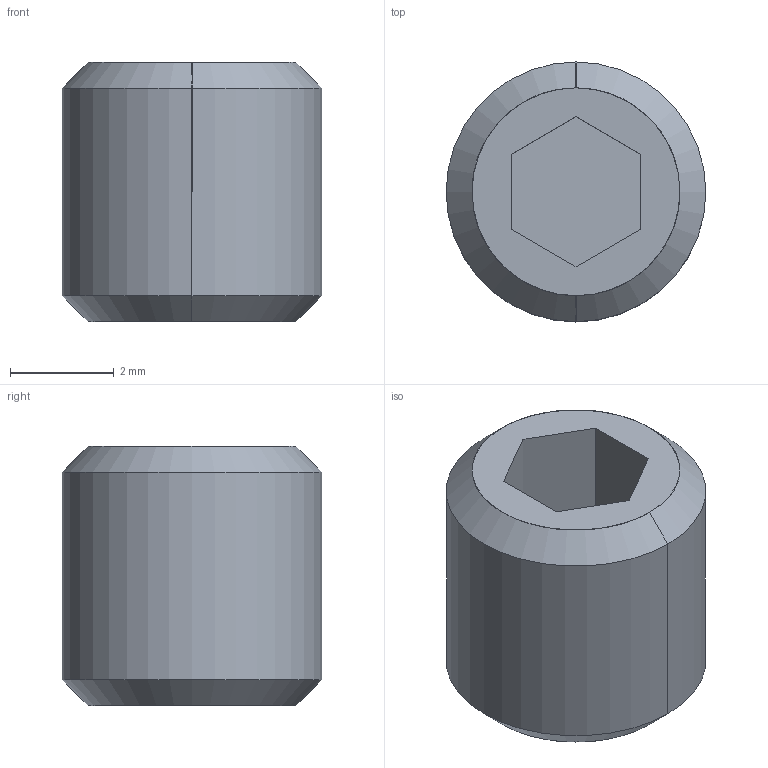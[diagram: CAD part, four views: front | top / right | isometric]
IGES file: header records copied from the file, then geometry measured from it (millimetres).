
Global section: file name: E:\UnigraphicsGraphicData\MISUMI_PRESS-PARTS\IGES\3d_msw5_00510_r00.igs; native system: NX V5.0; preprocessor: UGS NX IGES V5.0; author: MISUMI; date: 20110105.161523; units: millimetre
Bounding box: 5 x 5 x 5 mm (x, y, z)
Surface area: 125.4 mm2 (no closed solid volume)
Topology: 0 solids, 0 shells, 15 faces, 76 edges, 76 vertices
Faces by surface type: bspline 15
